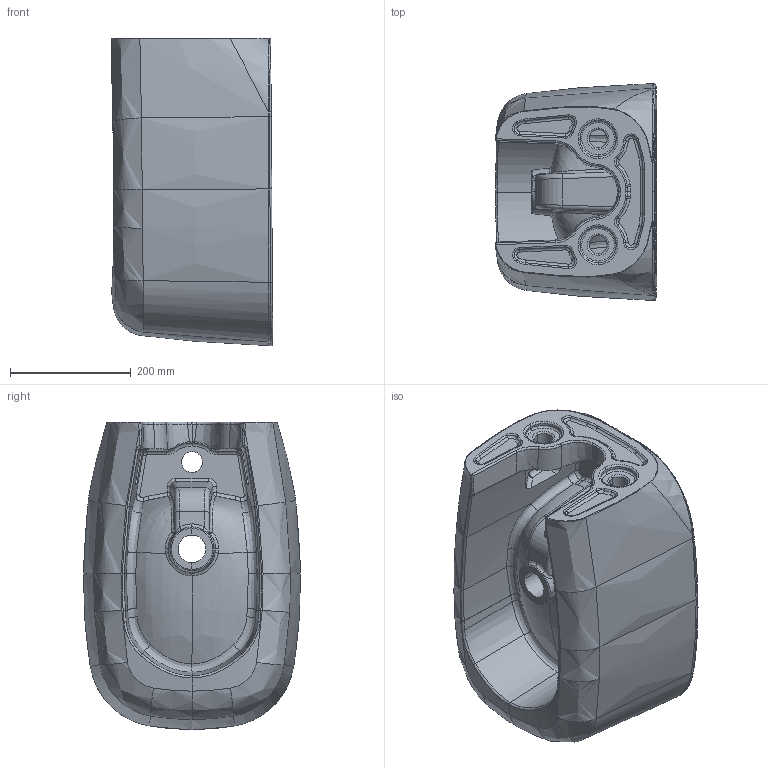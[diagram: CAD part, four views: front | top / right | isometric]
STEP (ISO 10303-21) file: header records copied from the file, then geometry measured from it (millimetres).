
FILE_DESCRIPTION(('CATIA V5 STEP Exchange'),'2;1');
FILE_NAME('C:\Users\167035\Downloads\3D_7814.stp','2025-04-18T14:55:36+00:00',('none'),('none'),'CATIA Version 5 Release 19 SP 5 (IN-10)','CATIA V5 STEP AP214','none');
FILE_SCHEMA(('AUTOMOTIVE_DESIGN { 1 0 10303 214 1 1 1 1 }'));
Products named in the file (1): Bidet sospeso Galassia
Bounding box: 268.21 x 359.94 x 510.02 mm (x, y, z)
Volume: 19400015 mm3; surface area: 962103.6 mm2
Topology: 1 solids, 1 shells, 404 faces, 952 edges, 540 vertices
Faces by surface type: bspline 276, cylinder 44, torus 42, plane 20, sphere 12, revolution 8, extrusion 2
Entity records: 109611 total; most frequent: CARTESIAN_POINT 102885, ORIENTED_EDGE 1876, EDGE_CURVE 938, B_SPLINE_CURVE_WITH_KNOTS 740, VERTEX_POINT 540, DIRECTION 437, EDGE_LOOP 416, ADVANCED_FACE 404
